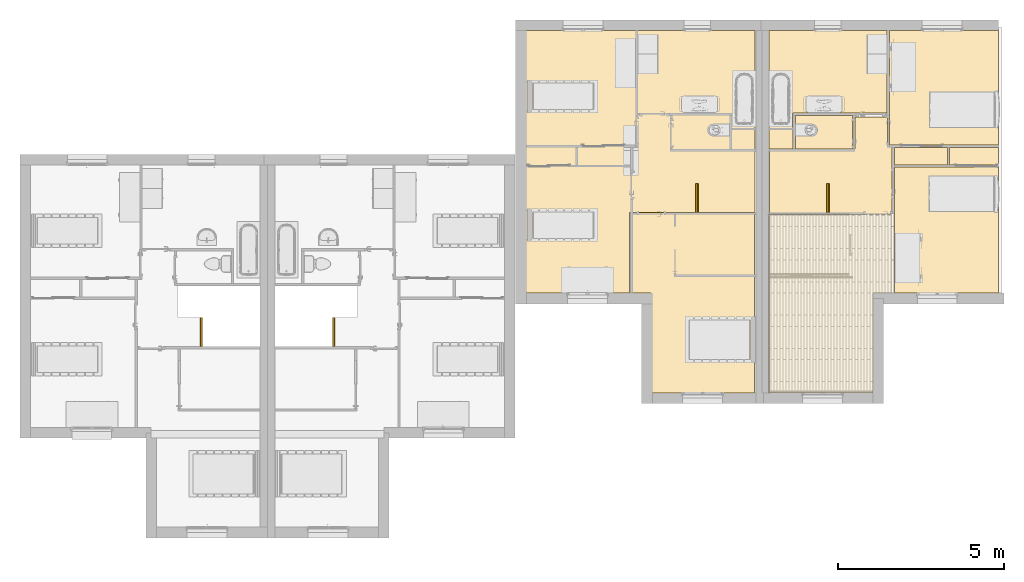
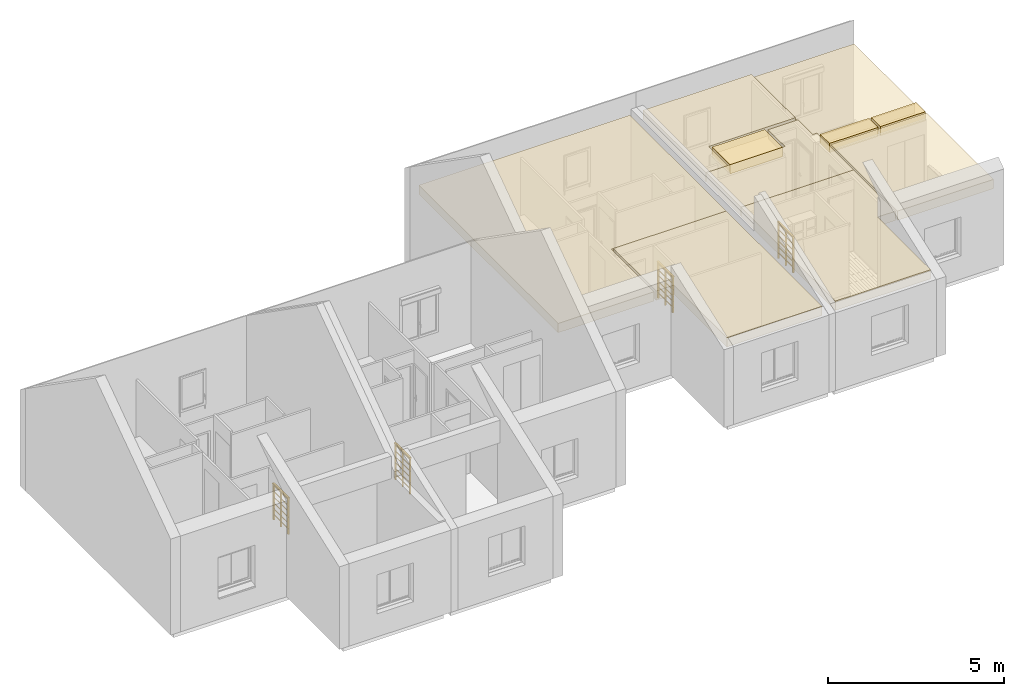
# One storey, part 50 of 61: 10 coverings, 4 railings.
"""IFC2X3 building model written with IfcOpenShell, lengths in metres."""

from ifc_helpers import new_model, entity, si_unit, converted_unit, derived_unit, direction, frame, frame_2d, origin, origin_2d_with_axis, place, context, subcontext, project, spatial, polyline, rectangle, circle, outline, extrude, material, material_list, layer, layer_set, layer_usage, type_object, element, save


model = new_model("IFC2X3")

# Units and contexts
model_context = context("Model", 3, precision=1e-05, world=origin(), true_north=direction((6.12303176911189e-17, 1.0)))
body_context = subcontext(model_context, "Body", "Model", "MODEL_VIEW")
ifc_project = project(units=[si_unit("LENGTHUNIT", "METRE"), si_unit("AREAUNIT", "SQUARE_METRE"), si_unit("VOLUMEUNIT", "CUBIC_METRE"), converted_unit("PLANEANGLEUNIT", "DEGREE", entity("IfcRatioMeasure", 0.0174532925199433), si_unit("PLANEANGLEUNIT", "RADIAN"), dimensions=[0, 0, 0, 0, 0, 0, 0]), si_unit("MASSUNIT", "GRAM", prefix="KILO"), derived_unit("MASSDENSITYUNIT", [(si_unit("MASSUNIT", "GRAM", prefix="KILO"), 1), (si_unit("LENGTHUNIT", "METRE"), -3)]), si_unit("TIMEUNIT", "SECOND"), si_unit("FREQUENCYUNIT", "HERTZ"), si_unit("THERMODYNAMICTEMPERATUREUNIT", "DEGREE_CELSIUS"), derived_unit("THERMALTRANSMITTANCEUNIT", [(si_unit("MASSUNIT", "GRAM", prefix="KILO"), 1), (si_unit("THERMODYNAMICTEMPERATUREUNIT", "KELVIN"), -1), (si_unit("TIMEUNIT", "SECOND"), -3)]), derived_unit("VOLUMETRICFLOWRATEUNIT", [(si_unit("LENGTHUNIT", "METRE"), 3), (si_unit("TIMEUNIT", "SECOND"), -1)]), si_unit("ELECTRICCURRENTUNIT", "AMPERE"), si_unit("ELECTRICVOLTAGEUNIT", "VOLT"), si_unit("POWERUNIT", "WATT"), si_unit("FORCEUNIT", "NEWTON", prefix="KILO"), si_unit("ILLUMINANCEUNIT", "LUX"), si_unit("LUMINOUSFLUXUNIT", "LUMEN"), si_unit("LUMINOUSINTENSITYUNIT", "CANDELA"), derived_unit("USERDEFINED", [(si_unit("MASSUNIT", "GRAM", prefix="KILO"), -1), (si_unit("LENGTHUNIT", "METRE"), -2), (si_unit("TIMEUNIT", "SECOND"), 3), (si_unit("LUMINOUSFLUXUNIT", "LUMEN"), 1)]), derived_unit("LINEARVELOCITYUNIT", [(si_unit("LENGTHUNIT", "METRE"), 1), (si_unit("TIMEUNIT", "SECOND"), -1)]), si_unit("PRESSUREUNIT", "PASCAL"), derived_unit("USERDEFINED", [(si_unit("LENGTHUNIT", "METRE"), -2), (si_unit("MASSUNIT", "GRAM", prefix="KILO"), 1), (si_unit("TIMEUNIT", "SECOND"), -2)])], contexts=[model_context])

# Site, building, storey
site_placement = place(None, origin())
site = spatial("IfcSite", under=ifc_project, at=site_placement, Name="Surface", CompositionType="ELEMENT")
building_placement = place(site_placement, origin())
building = spatial("IfcBuilding", under=site, at=building_placement, CompositionType="ELEMENT")
storey_placement = place(building_placement, frame((0.0, 0.0, 2.82)))
storey = spatial("IfcBuildingStorey", under=building, at=storey_placement, Name="ETAGE", CompositionType="ELEMENT", Elevation=2.82)

# Coverings
ifc_material_1 = material(Name="Isolant")
ifc_layer_1 = layer(ifc_material_1, 0.3)
ifc_material_2 = material(Name="Faux-Plafond par Défaut")
ifc_layer_2 = layer(ifc_material_2, 0.02)
ifc_layer_set = layer_set([ifc_layer_1, ifc_layer_2], Name="Plafond composé:Plafond avec isolation")
ifc_layer_usage_1 = layer_usage(ifc_layer_set, "AXIS3", "POSITIVE", 0.0)
covering_type_1 = type_object("IfcCoveringType", Name="Plafond composé:Plafond avec isolation", PredefinedType="CEILING")
covering_1_placement = place(storey_placement, origin())
element("IfcCovering", 1, at=covering_1_placement, inside=storey, type_object=covering_type_1, material=ifc_layer_usage_1, Name="Plafond composé:Plafond avec isolation", ObjectType="Plafond composé:Plafond avec isolation", PredefinedType="CEILING", context=body_context, shape_type="SweptSolid", body=[
    extrude(outline(polyline([(-4.45666666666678, -3.3488419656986), (3.44333333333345, -3.3488419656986), (3.44333333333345, -0.210579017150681), (1.01333333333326, -0.210579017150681), (1.01333333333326, 3.55942098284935), (-4.45666666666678, 3.55942098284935), (-4.45666666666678, -3.3488419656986)])), frame((79.9373647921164, 87.690857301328, 2.5), z_axis=(0.0, 0.0, 1.0), x_axis=(0.0, -1.0, 0.0)), (0.0, 0.0, 1.0), 0.32),
])
ifc_layer_usage_2 = layer_usage(ifc_layer_set, "AXIS3", "POSITIVE", 0.0)
covering_type_2 = type_object("IfcCoveringType", Name="Plafond composé:Plafond avec isolation", PredefinedType="CEILING")
covering_2_placement = place(storey_placement, origin())
element("IfcCovering", 2, at=covering_2_placement, inside=storey, type_object=covering_type_2, material=ifc_layer_usage_2, Name="Plafond composé:Plafond avec isolation", ObjectType="Plafond composé:Plafond avec isolation", PredefinedType="CEILING", context=body_context, shape_type="SweptSolid", body=[
    extrude(outline(polyline([(-2.62000000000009, -1.42596113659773), (-0.189999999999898, -1.42596113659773), (-0.189999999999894, -0.84596113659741), (2.80999999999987, -0.845961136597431), (2.8099999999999, 2.27192227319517), (-2.62000000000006, 2.27192227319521), (-2.62000000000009, -1.42596113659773)])), frame((81.2227469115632, 84.0575239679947, 2.5), z_axis=(0.0, 0.0, 1.0), x_axis=(0.0, -1.0, 0.0)), (0.0, 0.0, 1.0), 0.32),
])
ifc_layer_usage_3 = layer_usage(ifc_layer_set, "AXIS3", "POSITIVE", 0.0)
covering_type_3 = type_object("IfcCoveringType", Name="Plafond composé:Plafond avec isolation", PredefinedType="CEILING")
covering_3_placement = place(storey_placement, origin())
element("IfcCovering", 3, at=covering_3_placement, inside=storey, type_object=covering_type_3, material=ifc_layer_usage_3, Name="Plafond composé:Plafond avec isolation", ObjectType="Plafond composé:Plafond avec isolation", PredefinedType="CEILING", context=body_context, shape_type="SweptSolid", body=[
    extrude(outline(polyline([(-2.01443981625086, -1.42429446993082), (1.54887963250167, -1.42429446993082), (1.54887963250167, -0.703911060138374), (0.465560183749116, -0.703911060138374), (0.465560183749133, 2.12820553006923), (-2.01443981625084, 2.12820553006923), (-2.01443981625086, -1.42429446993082)])), frame((85.3506968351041, 90.133084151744, 2.52), z_axis=(0.0, 0.0, 1.0), x_axis=(0.0, -1.0, 0.0)), (0.0, 0.0, 1.0), 0.32),
])
ifc_layer_usage_4 = layer_usage(ifc_layer_set, "AXIS3", "POSITIVE", 0.0)
covering_type_4 = type_object("IfcCoveringType", Name="Plafond composé:Plafond avec isolation", PredefinedType="CEILING")
covering_4_placement = place(storey_placement, origin())
element("IfcCovering", 4, at=covering_4_placement, inside=storey, type_object=covering_type_4, material=ifc_layer_usage_4, Name="Plafond composé:Plafond avec isolation", ObjectType="Plafond composé:Plafond avec isolation", PredefinedType="CEILING", context=body_context, shape_type="SweptSolid", body=[
    extrude(rectangle(XDim=3.28614635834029, YDim=3.44000000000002, at=frame_2d((-8.65973959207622e-15, 1.73194791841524e-14), x_axis=(1.0, 0.0))), frame((89.1919755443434, 90.4275239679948, 2.4)), (0.0, 0.0, 1.0), 0.32),
])
ifc_layer_usage_5 = layer_usage(ifc_layer_set, "AXIS3", "POSITIVE", 0.0)
covering_type_5 = type_object("IfcCoveringType", Name="Plafond composé:Plafond avec isolation", PredefinedType="CEILING")
covering_5_placement = place(storey_placement, origin())
element("IfcCovering", 5, at=covering_5_placement, inside=storey, type_object=covering_type_5, material=ifc_layer_usage_5, Name="Plafond composé:Plafond avec isolation", ObjectType="Plafond composé:Plafond avec isolation", PredefinedType="CEILING", context=body_context, shape_type="SweptSolid", body=[
    extrude(rectangle(XDim=3.1382629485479, YDim=3.78999999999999, at=origin_2d_with_axis()), frame((89.2659172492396, 86.1425239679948, 2.5), z_axis=(0.0, 0.0, 1.0), x_axis=(-1.0, 0.0, 0.0)), (0.0, 0.0, 1.0), 0.32),
])
ifc_layer_usage_6 = layer_usage(ifc_layer_set, "AXIS3", "POSITIVE", 0.0)
covering_type_6 = type_object("IfcCoveringType", Name="Plafond composé:Plafond avec isolation", PredefinedType="CEILING")
covering_6_placement = place(storey_placement, origin())
element("IfcCovering", 6, at=covering_6_placement, inside=storey, type_object=covering_type_6, material=ifc_layer_usage_6, Name="Plafond composé:Plafond avec isolation", ObjectType="Plafond composé:Plafond avec isolation", PredefinedType="CEILING", context=body_context, shape_type="SweptSolid", body=[
    extrude(rectangle(XDim=1.47663147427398, YDim=0.530000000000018, at=frame_2d((-8.65973959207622e-15, 8.65973959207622e-15), x_axis=(1.0, 0.0))), frame((90.0967329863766, 88.3725239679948, 2.5), z_axis=(0.0, 0.0, 1.0), x_axis=(-1.0, 0.0, 0.0)), (0.0, 0.0, 1.0), 0.32),
])
ifc_layer_usage_7 = layer_usage(ifc_layer_set, "AXIS3", "POSITIVE", 0.0)
covering_type_7 = type_object("IfcCoveringType", Name="Plafond composé:Plafond avec isolation", PredefinedType="CEILING")
covering_7_placement = place(storey_placement, origin())
element("IfcCovering", 7, at=covering_7_placement, inside=storey, type_object=covering_type_7, material=ifc_layer_usage_7, Name="Plafond composé:Plafond avec isolation", ObjectType="Plafond composé:Plafond avec isolation", PredefinedType="CEILING", context=body_context, shape_type="SweptSolid", body=[
    extrude(rectangle(XDim=0.530000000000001, YDim=1.59163147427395, at=origin_2d_with_axis()), frame((88.4926015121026, 88.3725239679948, 2.5), z_axis=(0.0, 0.0, 1.0), x_axis=(0.0, 1.0, 0.0)), (0.0, 0.0, 1.0), 0.32),
])
ifc_layer_usage_8 = layer_usage(ifc_layer_set, "AXIS3", "POSITIVE", 0.0)
covering_type_8 = type_object("IfcCoveringType", Name="Plafond composé:Plafond avec isolation", PredefinedType="CEILING")
covering_8_placement = place(storey_placement, origin())
element("IfcCovering", 8, at=covering_8_placement, inside=storey, type_object=covering_type_8, material=ifc_layer_usage_8, Name="Plafond composé:Plafond avec isolation", ObjectType="Plafond composé:Plafond avec isolation", PredefinedType="CEILING", context=body_context, shape_type="SweptSolid", body=[
    extrude(rectangle(XDim=1.72166575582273, YDim=1.01331944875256, at=frame_2d((8.65973959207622e-15, 0.0), x_axis=(1.0, 0.0))), frame((85.577618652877, 89.0908642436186, 2.52), z_axis=(0.0, 0.0, 1.0), x_axis=(-1.0, 0.0, 0.0)), (0.0, 0.0, 1.0), 0.32),
])
ifc_layer_usage_9 = layer_usage(ifc_layer_set, "AXIS3", "POSITIVE", 0.0)
covering_type_9 = type_object("IfcCoveringType", Name="Plafond composé:Plafond avec isolation", PredefinedType="CEILING")
covering_9_placement = place(storey_placement, origin())
element("IfcCovering", 9, at=covering_9_placement, inside=storey, type_object=covering_type_9, material=ifc_layer_usage_9, Name="Plafond composé:Plafond avec isolation", ObjectType="Plafond composé:Plafond avec isolation", PredefinedType="CEILING", context=body_context, shape_type="SweptSolid", body=[
    extrude(outline(polyline([(-1.42333333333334, -2.57333333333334), (2.27166666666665, -2.57333333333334), (2.27166666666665, 2.78666666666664), (-0.848333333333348, 2.78666666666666), (-0.848333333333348, -0.213333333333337), (-1.42333333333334, -0.213333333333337), (-1.42333333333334, -2.57333333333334)])), frame((86.2003274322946, 84.0362711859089, 2.52), z_axis=(0.0, 0.0, 1.0), x_axis=(-1.0, 0.0, 0.0)), (0.0, 0.0, 1.0), 0.32),
])
ifc_layer_usage_10 = layer_usage(ifc_layer_set, "AXIS3", "POSITIVE", 0.0)
covering_type_10 = type_object("IfcCoveringType", Name="Plafond composé:Plafond avec isolation", PredefinedType="CEILING")
covering_10_placement = place(storey_placement, origin())
element("IfcCovering", 10, at=covering_10_placement, inside=storey, type_object=covering_type_10, material=ifc_layer_usage_10, Name="Plafond composé:Plafond avec isolation", ObjectType="Plafond composé:Plafond avec isolation", PredefinedType="CEILING", context=body_context, shape_type="SweptSolid", body=[
    extrude(outline(polyline([(-0.122291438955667, -0.224170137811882), (2.45770856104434, -0.224170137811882), (2.45770856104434, 1.75251041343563), (-1.23312568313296, 1.75251041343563), (-1.23312568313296, -0.34417013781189), (-1.10229143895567, -0.34417013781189), (-1.10229143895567, -1.18417013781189), (-0.122291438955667, -1.18417013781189), (-0.122291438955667, -0.224170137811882)])), frame((86.3936600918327, 88.3600343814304, 2.52), z_axis=(0.0, 0.0, 1.0), x_axis=(-1.0, 0.0, 0.0)), (0.0, 0.0, 1.0), 0.32),
])

# Railings
ifc_material_3 = material(Name="noir acier")
ifc_material_4 = material(Name="Finition Peinture Grise")
ifc_material_list_1 = material_list([ifc_material_3, ifc_material_4])
railing_1_placement = place(storey_placement, origin())
element("IfcRailing", 11, at=railing_1_placement, inside=storey, material=ifc_material_list_1, Name="Garde-corps:Type Bateau 1,25 m", ObjectType="Garde-corps:Type Bateau 1,25 m", PredefinedType="NOTDEFINED", context=body_context, shape_type="SweptSolid", body=[
    extrude(rectangle(XDim=0.050000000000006, YDim=0.0139999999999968, at=frame_2d((-8.6614743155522e-15, 0.0), x_axis=(1.0, 0.0))), frame((85.6989505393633, 87.5199433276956, -0.100000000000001), z_axis=(0.0, 0.0, 1.0), x_axis=(-1.0, 0.0, 0.0)), (0.0, 0.0, 1.0), 1.21984653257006),
    extrude(rectangle(XDim=0.050000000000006, YDim=0.0139999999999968, at=frame_2d((-8.6614743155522e-15, 0.0), x_axis=(1.0, 0.0))), frame((85.6989505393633, 87.1199433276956, -0.100000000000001), z_axis=(0.0, 0.0, 1.0), x_axis=(-1.0, 0.0, 0.0)), (0.0, 0.0, 1.0), 1.21984653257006),
    extrude(rectangle(XDim=0.050000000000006, YDim=0.0139999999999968, at=frame_2d((-8.6614743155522e-15, 0.0), x_axis=(1.0, 0.0))), frame((85.6989505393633, 86.7199433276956, -0.100000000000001), z_axis=(0.0, 0.0, 1.0), x_axis=(-1.0, 0.0, 0.0)), (0.0, 0.0, 1.0), 1.21984653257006),
    extrude(rectangle(XDim=0.050000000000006, YDim=0.0139999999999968, at=frame_2d((-8.6614743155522e-15, 0.0), x_axis=(1.0, 0.0))), frame((85.6989505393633, 87.5461836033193, -0.100000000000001), z_axis=(0.0, 0.0, 1.0), x_axis=(-1.0, 0.0, 0.0)), (0.0, 0.0, 1.0), 1.21984653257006),
    extrude(rectangle(XDim=0.050000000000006, YDim=0.0139999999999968, at=frame_2d((-8.6614743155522e-15, 0.0), x_axis=(1.0, 0.0))), frame((85.6989505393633, 86.6937030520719, -0.100000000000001), z_axis=(0.0, 0.0, 1.0), x_axis=(-1.0, 0.0, 0.0)), (0.0, 0.0, 1.0), 1.21984653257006),
    extrude(outline(polyline([(-0.01090678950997, -0.0384843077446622), (0.00177588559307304, -0.0384843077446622), (0.0141514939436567, -0.0318300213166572), (0.0240801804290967, -0.019672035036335), (0.0298451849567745, -0.0041125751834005), (0.0304496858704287, 0.012157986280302), (0.0257891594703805, 0.0263263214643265), (0.0166694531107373, 0.0359425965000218), (0.010906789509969, 0.0384843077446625), (-0.00177588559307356, 0.0384843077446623), (-0.0141514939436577, 0.0318300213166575), (-0.0240801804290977, 0.0196720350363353), (-0.0298451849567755, 0.00411257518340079), (-0.0304496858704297, -0.0121579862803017), (-0.0257891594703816, -0.0263263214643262), (-0.0166694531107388, -0.0359425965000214), (-0.01090678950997, -0.0384843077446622)])), frame((85.6984515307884, 86.6825239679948, 1.15), z_axis=(0.0, 1.0, 0.0), x_axis=(0.272669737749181, 0.0, 0.962107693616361)), (0.0, 0.0, 1.0), 0.872480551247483),
    extrude(circle(Radius=0.015, at=origin_2d_with_axis()), frame((85.6984515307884, 86.6825239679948, 1.085), z_axis=(0.0, 1.0, 0.0), x_axis=(1.0, 0.0, 0.0)), (0.0, 0.0, 1.0), 0.872480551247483),
    extrude(circle(Radius=0.015, at=origin_2d_with_axis()), frame((85.6984515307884, 86.6825239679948, 0.885), z_axis=(0.0, 1.0, 0.0), x_axis=(1.0, 0.0, 0.0)), (0.0, 0.0, 1.0), 0.872480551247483),
    extrude(circle(Radius=0.015, at=origin_2d_with_axis()), frame((85.6984515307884, 86.6825239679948, 0.685), z_axis=(0.0, 1.0, 0.0), x_axis=(1.0, 0.0, 0.0)), (0.0, 0.0, 1.0), 0.872480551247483),
    extrude(circle(Radius=0.015, at=origin_2d_with_axis()), frame((85.6984515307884, 86.6825239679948, 0.485), z_axis=(0.0, 1.0, 0.0), x_axis=(1.0, 0.0, 0.0)), (0.0, 0.0, 1.0), 0.872480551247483),
    extrude(circle(Radius=0.015, at=origin_2d_with_axis()), frame((85.6984515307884, 86.6825239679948, 0.285), z_axis=(0.0, 1.0, 0.0), x_axis=(1.0, 0.0, 0.0)), (0.0, 0.0, 1.0), 0.872480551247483),
    extrude(circle(Radius=0.015, at=origin_2d_with_axis()), frame((85.6984515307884, 86.6825239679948, 0.0850000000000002), z_axis=(0.0, 1.0, 0.0), x_axis=(1.0, 0.0, 0.0)), (0.0, 0.0, 1.0), 0.872480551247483),
])
ifc_material_list_2 = material_list([ifc_material_3, ifc_material_4])
railing_2_placement = place(storey_placement, origin())
element("IfcRailing", 12, at=railing_2_placement, inside=storey, material=ifc_material_list_2, Name="Garde-corps:Type Bateau 1,25 m", ObjectType="Garde-corps:Type Bateau 1,25 m", PredefinedType="NOTDEFINED", context=body_context, shape_type="SweptSolid", body=[
    extrude(rectangle(XDim=0.0499999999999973, YDim=0.0139999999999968, at=frame_2d((4.32986979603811e-15, 0.0), x_axis=(1.0, 0.0))), frame((70.8267911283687, 83.4801760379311, -0.100000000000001), z_axis=(0.0, 0.0, 1.0), x_axis=(-1.0, 0.0, 0.0)), (0.0, 0.0, 1.0), 1.21984653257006),
    extrude(rectangle(XDim=0.0499999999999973, YDim=0.0139999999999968, at=frame_2d((4.32986979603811e-15, 0.0), x_axis=(1.0, 0.0))), frame((70.8267911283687, 83.0801760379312, -0.100000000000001), z_axis=(0.0, 0.0, 1.0), x_axis=(-1.0, 0.0, 0.0)), (0.0, 0.0, 1.0), 1.21984653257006),
    extrude(rectangle(XDim=0.0499999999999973, YDim=0.0139999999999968, at=frame_2d((4.32986979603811e-15, 0.0), x_axis=(1.0, 0.0))), frame((70.8267911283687, 82.6801760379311, -0.100000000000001), z_axis=(0.0, 0.0, 1.0), x_axis=(-1.0, 0.0, 0.0)), (0.0, 0.0, 1.0), 1.21984653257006),
    extrude(rectangle(XDim=0.0499999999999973, YDim=0.0139999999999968, at=frame_2d((4.32986979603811e-15, 0.0), x_axis=(1.0, 0.0))), frame((70.8267911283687, 83.5064163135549, -0.100000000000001), z_axis=(0.0, 0.0, 1.0), x_axis=(-1.0, 0.0, 0.0)), (0.0, 0.0, 1.0), 1.21984653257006),
    extrude(rectangle(XDim=0.0499999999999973, YDim=0.0139999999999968, at=frame_2d((4.32986979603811e-15, 0.0), x_axis=(1.0, 0.0))), frame((70.8267911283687, 82.6539357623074, -0.100000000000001), z_axis=(0.0, 0.0, 1.0), x_axis=(-1.0, 0.0, 0.0)), (0.0, 0.0, 1.0), 1.21984653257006),
    extrude(outline(polyline([(-0.0109067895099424, -0.038484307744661), (0.00177588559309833, -0.038484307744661), (0.0141514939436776, -0.0318300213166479), (0.0240801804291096, -0.0196720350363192), (0.0298451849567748, -0.00411257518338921), (0.0304496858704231, 0.0121579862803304), (0.0257891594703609, 0.0263263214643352), (0.016669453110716, 0.0359425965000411), (0.0109067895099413, 0.0384843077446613), (-0.00177588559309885, 0.0384843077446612), (-0.0141514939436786, 0.0318300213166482), (-0.0240801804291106, 0.0196720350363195), (-0.0298451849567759, 0.0041125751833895), (-0.0304496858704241, -0.0121579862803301), (-0.0257891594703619, -0.0263263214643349), (-0.0166694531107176, -0.0359425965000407), (-0.0109067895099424, -0.038484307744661)])), frame((70.8262921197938, 82.6427566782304, 1.15), z_axis=(0.0, 1.0, 0.0), x_axis=(0.272669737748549, 0.0, 0.96210769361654)), (0.0, 0.0, 1.0), 0.872480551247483),
    extrude(circle(Radius=0.015, at=origin_2d_with_axis()), frame((70.8262921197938, 82.6427566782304, 1.085), z_axis=(0.0, 1.0, 0.0), x_axis=(1.0, 0.0, 0.0)), (0.0, 0.0, 1.0), 0.872480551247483),
    extrude(circle(Radius=0.015, at=origin_2d_with_axis()), frame((70.8262921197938, 82.6427566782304, 0.885), z_axis=(0.0, 1.0, 0.0), x_axis=(1.0, 0.0, 0.0)), (0.0, 0.0, 1.0), 0.872480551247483),
    extrude(circle(Radius=0.015, at=origin_2d_with_axis()), frame((70.8262921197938, 82.6427566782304, 0.685), z_axis=(0.0, 1.0, 0.0), x_axis=(1.0, 0.0, 0.0)), (0.0, 0.0, 1.0), 0.872480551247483),
    extrude(circle(Radius=0.015, at=origin_2d_with_axis()), frame((70.8262921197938, 82.6427566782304, 0.485), z_axis=(0.0, 1.0, 0.0), x_axis=(1.0, 0.0, 0.0)), (0.0, 0.0, 1.0), 0.872480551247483),
    extrude(circle(Radius=0.015, at=origin_2d_with_axis()), frame((70.8262921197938, 82.6427566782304, 0.285), z_axis=(0.0, 1.0, 0.0), x_axis=(1.0, 0.0, 0.0)), (0.0, 0.0, 1.0), 0.872480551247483),
    extrude(circle(Radius=0.015, at=origin_2d_with_axis()), frame((70.8262921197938, 82.6427566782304, 0.0850000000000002), z_axis=(0.0, 1.0, 0.0), x_axis=(1.0, 0.0, 0.0)), (0.0, 0.0, 1.0), 0.872480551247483),
])
ifc_material_list_3 = material_list([ifc_material_3, ifc_material_4])
railing_3_placement = place(storey_placement, origin())
element("IfcRailing", 13, at=railing_3_placement, inside=storey, material=ifc_material_list_3, Name="Garde-corps:Type Bateau 1,25 m", ObjectType="Garde-corps:Type Bateau 1,25 m", PredefinedType="NOTDEFINED", context=body_context, shape_type="SweptSolid", body=[
    extrude(rectangle(XDim=0.0139999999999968, YDim=0.0499999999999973, at=frame_2d((0.0, -4.32986979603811e-15), x_axis=(1.0, 0.0))), frame((66.842461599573, 83.4801760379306, -0.1), z_axis=(0.0, 0.0, 1.0), x_axis=(0.0, -1.0, 0.0)), (0.0, 0.0, 1.0), 1.21984653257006),
    extrude(rectangle(XDim=0.0139999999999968, YDim=0.0499999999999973, at=frame_2d((0.0, -4.32986979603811e-15), x_axis=(1.0, 0.0))), frame((66.842461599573, 83.0801760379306, -0.1), z_axis=(0.0, 0.0, 1.0), x_axis=(0.0, -1.0, 0.0)), (0.0, 0.0, 1.0), 1.21984653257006),
    extrude(rectangle(XDim=0.0139999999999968, YDim=0.0499999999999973, at=frame_2d((0.0, -4.32986979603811e-15), x_axis=(1.0, 0.0))), frame((66.842461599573, 82.6801760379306, -0.1), z_axis=(0.0, 0.0, 1.0), x_axis=(0.0, -1.0, 0.0)), (0.0, 0.0, 1.0), 1.21984653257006),
    extrude(rectangle(XDim=0.0139999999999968, YDim=0.0499999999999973, at=frame_2d((0.0, -4.32986979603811e-15), x_axis=(1.0, 0.0))), frame((66.842461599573, 83.5064163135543, -0.1), z_axis=(0.0, 0.0, 1.0), x_axis=(0.0, -1.0, 0.0)), (0.0, 0.0, 1.0), 1.21984653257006),
    extrude(rectangle(XDim=0.0139999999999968, YDim=0.0499999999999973, at=frame_2d((0.0, -4.32986979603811e-15), x_axis=(1.0, 0.0))), frame((66.842461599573, 82.6539357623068, -0.1), z_axis=(0.0, 0.0, 1.0), x_axis=(0.0, -1.0, 0.0)), (0.0, 0.0, 1.0), 1.21984653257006),
    extrude(outline(polyline([(-0.0109067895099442, -0.0384843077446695), (0.00177588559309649, -0.0384843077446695), (0.0141514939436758, -0.0318300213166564), (0.0240801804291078, -0.0196720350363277), (0.029845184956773, -0.00411257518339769), (0.0304496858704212, 0.0121579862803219), (0.025789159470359, 0.0263263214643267), (0.0166694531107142, 0.0359425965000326), (0.0109067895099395, 0.0384843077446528), (-0.00177588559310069, 0.0384843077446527), (-0.0141514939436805, 0.0318300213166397), (-0.0240801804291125, 0.019672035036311), (-0.0298451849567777, 0.00411257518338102), (-0.0304496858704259, -0.0121579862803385), (-0.0257891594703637, -0.0263263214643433), (-0.0166694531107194, -0.0359425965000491), (-0.0109067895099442, -0.0384843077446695)])), frame((66.8429606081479, 82.6427566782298, 1.15), z_axis=(0.0, 1.0, 0.0), x_axis=(-0.272669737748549, 0.0, -0.96210769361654)), (0.0, 0.0, 1.0), 0.872480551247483),
    extrude(circle(Radius=0.015, at=origin_2d_with_axis()), frame((66.8429606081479, 82.6427566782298, 1.085), z_axis=(0.0, 1.0, 0.0), x_axis=(-1.0, 0.0, 0.0)), (0.0, 0.0, 1.0), 0.872480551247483),
    extrude(circle(Radius=0.015, at=origin_2d_with_axis()), frame((66.8429606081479, 82.6427566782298, 0.885), z_axis=(0.0, 1.0, 0.0), x_axis=(-1.0, 0.0, 0.0)), (0.0, 0.0, 1.0), 0.872480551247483),
    extrude(circle(Radius=0.015, at=origin_2d_with_axis()), frame((66.8429606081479, 82.6427566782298, 0.685), z_axis=(0.0, 1.0, 0.0), x_axis=(-1.0, 0.0, 0.0)), (0.0, 0.0, 1.0), 0.872480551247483),
    extrude(circle(Radius=0.015, at=origin_2d_with_axis()), frame((66.8429606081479, 82.6427566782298, 0.485), z_axis=(0.0, 1.0, 0.0), x_axis=(-1.0, 0.0, 0.0)), (0.0, 0.0, 1.0), 0.872480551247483),
    extrude(circle(Radius=0.015, at=origin_2d_with_axis()), frame((66.8429606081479, 82.6427566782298, 0.285), z_axis=(0.0, 1.0, 0.0), x_axis=(-1.0, 0.0, 0.0)), (0.0, 0.0, 1.0), 0.872480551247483),
    extrude(circle(Radius=0.015, at=origin_2d_with_axis()), frame((66.8429606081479, 82.6427566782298, 0.0850000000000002), z_axis=(0.0, 1.0, 0.0), x_axis=(-1.0, 0.0, 0.0)), (0.0, 0.0, 1.0), 0.872480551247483),
])
ifc_material_list_4 = material_list([ifc_material_3, ifc_material_4])
railing_4_placement = place(storey_placement, origin())
element("IfcRailing", 14, at=railing_4_placement, inside=storey, material=ifc_material_list_4, Name="Garde-corps:Type Bateau 1,25 m", ObjectType="Garde-corps:Type Bateau 1,25 m", PredefinedType="NOTDEFINED", context=body_context, shape_type="SweptSolid", body=[
    extrude(rectangle(XDim=0.0139999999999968, YDim=0.050000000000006, at=frame_2d((0.0, 8.6614743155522e-15), x_axis=(1.0, 0.0))), frame((81.7588541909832, 87.5199433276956, -0.1), z_axis=(0.0, 0.0, 1.0), x_axis=(0.0, -1.0, 0.0)), (0.0, 0.0, 1.0), 1.21984653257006),
    extrude(rectangle(XDim=0.0139999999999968, YDim=0.050000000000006, at=frame_2d((0.0, 8.6614743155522e-15), x_axis=(1.0, 0.0))), frame((81.7588541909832, 87.1199433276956, -0.1), z_axis=(0.0, 0.0, 1.0), x_axis=(0.0, -1.0, 0.0)), (0.0, 0.0, 1.0), 1.21984653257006),
    extrude(rectangle(XDim=0.0139999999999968, YDim=0.050000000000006, at=frame_2d((0.0, 8.6614743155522e-15), x_axis=(1.0, 0.0))), frame((81.7588541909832, 86.7199433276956, -0.1), z_axis=(0.0, 0.0, 1.0), x_axis=(0.0, -1.0, 0.0)), (0.0, 0.0, 1.0), 1.21984653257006),
    extrude(rectangle(XDim=0.0139999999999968, YDim=0.050000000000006, at=frame_2d((0.0, 8.6614743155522e-15), x_axis=(1.0, 0.0))), frame((81.7588541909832, 87.5461836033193, -0.1), z_axis=(0.0, 0.0, 1.0), x_axis=(0.0, -1.0, 0.0)), (0.0, 0.0, 1.0), 1.21984653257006),
    extrude(rectangle(XDim=0.0139999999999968, YDim=0.050000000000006, at=frame_2d((0.0, 8.6614743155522e-15), x_axis=(1.0, 0.0))), frame((81.7588541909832, 86.6937030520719, -0.1), z_axis=(0.0, 0.0, 1.0), x_axis=(0.0, -1.0, 0.0)), (0.0, 0.0, 1.0), 1.21984653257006),
    extrude(outline(polyline([(-0.0109067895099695, -0.0384843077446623), (0.00177588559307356, -0.0384843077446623), (0.0141514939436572, -0.0318300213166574), (0.0240801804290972, -0.0196720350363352), (0.029845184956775, -0.00411257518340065), (0.0304496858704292, 0.0121579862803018), (0.025789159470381, 0.0263263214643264), (0.0166694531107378, 0.0359425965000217), (0.0109067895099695, 0.0384843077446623), (-0.00177588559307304, 0.0384843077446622), (-0.0141514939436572, 0.0318300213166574), (-0.0240801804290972, 0.0196720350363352), (-0.029845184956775, 0.00411257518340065), (-0.0304496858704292, -0.0121579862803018), (-0.025789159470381, -0.0263263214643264), (-0.0166694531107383, -0.0359425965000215), (-0.0109067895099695, -0.0384843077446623)])), frame((81.7593531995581, 86.6825239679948, 1.15), z_axis=(0.0, 1.0, 0.0), x_axis=(-0.272669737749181, 0.0, -0.962107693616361)), (0.0, 0.0, 1.0), 0.872480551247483),
    extrude(circle(Radius=0.015, at=origin_2d_with_axis()), frame((81.7593531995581, 86.6825239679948, 1.085), z_axis=(0.0, 1.0, 0.0), x_axis=(-1.0, 0.0, 0.0)), (0.0, 0.0, 1.0), 0.872480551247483),
    extrude(circle(Radius=0.015, at=origin_2d_with_axis()), frame((81.7593531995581, 86.6825239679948, 0.885), z_axis=(0.0, 1.0, 0.0), x_axis=(-1.0, 0.0, 0.0)), (0.0, 0.0, 1.0), 0.872480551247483),
    extrude(circle(Radius=0.015, at=origin_2d_with_axis()), frame((81.7593531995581, 86.6825239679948, 0.685), z_axis=(0.0, 1.0, 0.0), x_axis=(-1.0, 0.0, 0.0)), (0.0, 0.0, 1.0), 0.872480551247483),
    extrude(circle(Radius=0.015, at=origin_2d_with_axis()), frame((81.7593531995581, 86.6825239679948, 0.485), z_axis=(0.0, 1.0, 0.0), x_axis=(-1.0, 0.0, 0.0)), (0.0, 0.0, 1.0), 0.872480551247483),
    extrude(circle(Radius=0.015, at=origin_2d_with_axis()), frame((81.7593531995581, 86.6825239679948, 0.285), z_axis=(0.0, 1.0, 0.0), x_axis=(-1.0, 0.0, 0.0)), (0.0, 0.0, 1.0), 0.872480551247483),
    extrude(circle(Radius=0.015, at=origin_2d_with_axis()), frame((81.7593531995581, 86.6825239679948, 0.0850000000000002), z_axis=(0.0, 1.0, 0.0), x_axis=(-1.0, 0.0, 0.0)), (0.0, 0.0, 1.0), 0.872480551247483),
])

save(model, "model.ifc")
